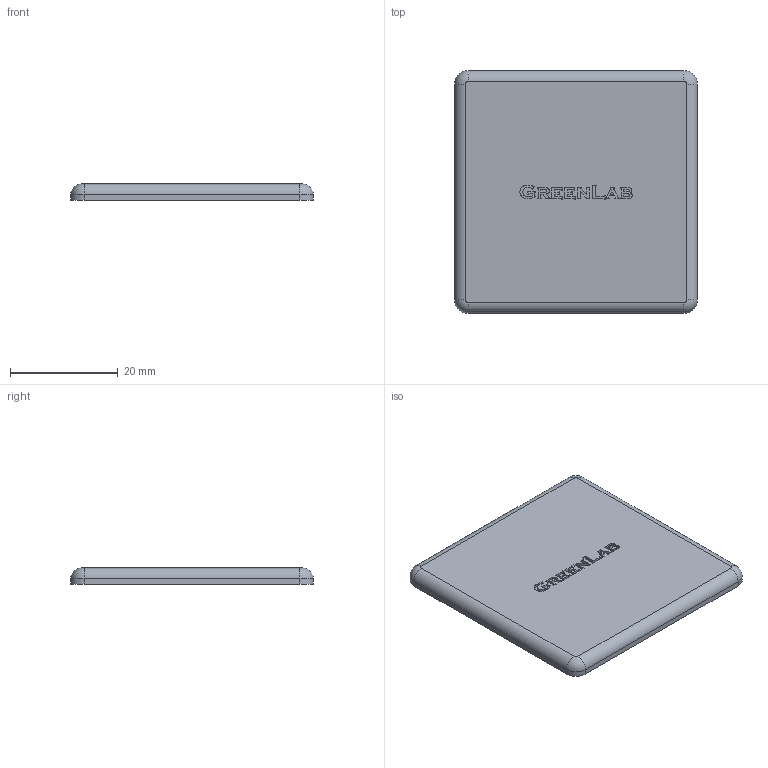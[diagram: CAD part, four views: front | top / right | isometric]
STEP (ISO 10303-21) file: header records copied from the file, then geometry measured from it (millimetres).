
FILE_DESCRIPTION (( 'STEP AP214' ), '1' );
FILE_NAME ('1.1059 Päätysuoja 45X45 musta.STEP', '2025-09-03T08:59:54', ( '' ), ( '' ), 'SwSTEP 2.0', 'SolidWorks 2025', '' );
FILE_SCHEMA (( 'AUTOMOTIVE_DESIGN' ));
Length unit declared in the file: millimetre
Products named in the file (1): 1.1059 Päätysuoja 45X45 musta
Bounding box: 45 x 45 x 3 mm (x, y, z)
Volume: 5899.7 mm3; surface area: 4467.5 mm2
Topology: 1 solids, 1 shells, 240 faces, 670 edges, 444 vertices
Faces by surface type: plane 143, bspline 85, cylinder 8, torus 4
Entity records: 10295 total; most frequent: CARTESIAN_POINT 4672, ORIENTED_EDGE 1340, DIRECTION 832, EDGE_CURVE 670, LINE 480, VECTOR 480, VERTEX_POINT 444, EDGE_LOOP 252
